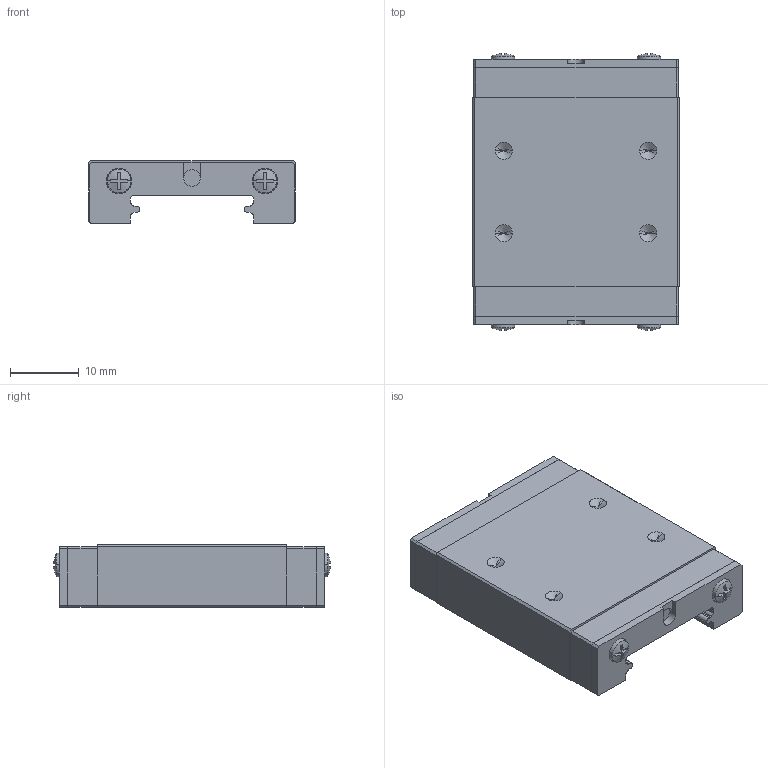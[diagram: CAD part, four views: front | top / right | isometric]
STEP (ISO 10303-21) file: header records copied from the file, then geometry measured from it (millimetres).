
FILE_DESCRIPTION(('no description'),'unknown implementation level');
FILE_NAME('MGW09C_ZF_H_M_SS_51.stp',' ',('HIWIN GmbH'),('CADClick - KiM GmbH - www.kimweb.de'),'unknown preprocess','ACIS','unknown authorization');
FILE_SCHEMA(('automotive_design'));
Length unit declared in the file: millimetre
Products named in the file (1): MGW09C ZF H M SS
Bounding box: 30 x 40.3 x 9.1 mm (x, y, z)
Volume: 7637.5 mm3; surface area: 3982 mm2
Topology: 1 solids, 3 shells, 194 faces, 528 edges, 344 vertices
Faces by surface type: plane 130, cylinder 36, cone 28
Entity records: 11864 total; most frequent: CARTESIAN_POINT 1171, STYLED_ITEM 1059, PRESENTATION_STYLE_ASSIGNMENT 1059, COLOUR_RGB 1059, ORIENTED_EDGE 1040, DIRECTION 954, EDGE_CURVE 520, CURVE_STYLE 520
